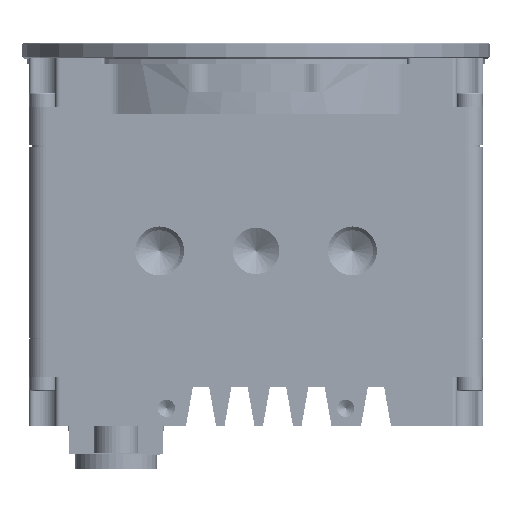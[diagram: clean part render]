
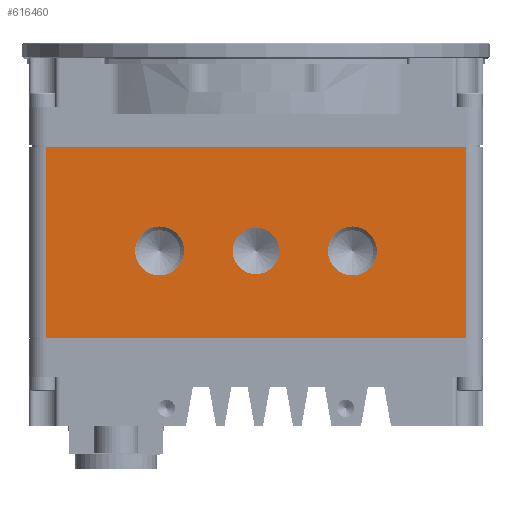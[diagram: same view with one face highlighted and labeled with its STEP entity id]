
A CAD part, front view. The second image highlights one B-rep face of the part: STEP entity #616460.
In plain terms, the highlighted planar face has unit normal (0, -1, 0).
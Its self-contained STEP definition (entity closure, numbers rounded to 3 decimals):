
#18959 = ORIENTED_EDGE ( 'NONE', *, *, #171097, .T. ) ;
#21669 = FACE_BOUND ( 'NONE', #151263, .T. ) ;
#36903 = AXIS2_PLACEMENT_3D ( 'NONE', #613152, #400120, #352435 ) ;
#50786 = VERTEX_POINT ( 'NONE', #303445 ) ;
#65046 = CIRCLE ( 'NONE', #174293, 3.378 ) ;
#65606 = CARTESIAN_POINT ( 'NONE',  ( 30.48, -26.67, -0.127 ) ) ;
#66860 = DIRECTION ( 'NONE',  ( 0., 0., 1. ) ) ;
#76630 = LINE ( 'NONE', #186213, #173561 ) ;
#78828 = VERTEX_POINT ( 'NONE', #65606 ) ;
#83039 = DIRECTION ( 'NONE',  ( 0., 0., 1. ) ) ;
#92913 = AXIS2_PLACEMENT_3D ( 'NONE', #531815, #638269, #66860 ) ;
#128115 = CIRCLE ( 'NONE', #499411, 3.55 ) ;
#142074 = CARTESIAN_POINT ( 'NONE',  ( 14., -26.67, -11.69 ) ) ;
#151263 = EDGE_LOOP ( 'NONE', ( #460669, #663733 ) ) ;
#151691 = DIRECTION ( 'NONE',  ( 0., -1., 0. ) ) ;
#165980 = VERTEX_POINT ( 'NONE', #321130 ) ;
#171097 = EDGE_CURVE ( 'NONE', #171845, #380185, #76630, .T. ) ;
#171845 = VERTEX_POINT ( 'NONE', #420568 ) ;
#173561 = VECTOR ( 'NONE', #607981, 1000. ) ;
#174293 = AXIS2_PLACEMENT_3D ( 'NONE', #462436, #151691, #514538 ) ;
#186213 = CARTESIAN_POINT ( 'NONE',  ( -30.48, -26.67, -27.94 ) ) ;
#222657 = CARTESIAN_POINT ( 'NONE',  ( 0., -26.67, -11.862 ) ) ;
#226134 = AXIS2_PLACEMENT_3D ( 'NONE', #335574, #535333, #643978 ) ;
#256536 = CIRCLE ( 'NONE', #460102, 3.55 ) ;
#265380 = EDGE_CURVE ( 'NONE', #165980, #78828, #407940, .T. ) ;
#269949 = VECTOR ( 'NONE', #83039, 1000. ) ;
#275732 = ORIENTED_EDGE ( 'NONE', *, *, #584041, .F. ) ;
#283823 = CARTESIAN_POINT ( 'NONE',  ( 30.48, -26.67, -0.127 ) ) ;
#303445 = CARTESIAN_POINT ( 'NONE',  ( -14., -26.67, -11.69 ) ) ;
#312735 = VERTEX_POINT ( 'NONE', #350751 ) ;
#316678 = ORIENTED_EDGE ( 'NONE', *, *, #430637, .F. ) ;
#317296 = DIRECTION ( 'NONE',  ( 1., 0., 0. ) ) ;
#321130 = CARTESIAN_POINT ( 'NONE',  ( 30.48, -26.67, -27.813 ) ) ;
#321599 = ORIENTED_EDGE ( 'NONE', *, *, #265380, .T. ) ;
#335574 = CARTESIAN_POINT ( 'NONE',  ( 33.02, -26.67, -27.94 ) ) ;
#336045 = VERTEX_POINT ( 'NONE', #222657 ) ;
#347554 = VERTEX_POINT ( 'NONE', #539930 ) ;
#350751 = CARTESIAN_POINT ( 'NONE',  ( 0., -26.67, -18.618 ) ) ;
#352435 = DIRECTION ( 'NONE',  ( 0., 0., 1. ) ) ;
#353500 = DIRECTION ( 'NONE',  ( 0., -1., 0. ) ) ;
#360768 = CIRCLE ( 'NONE', #498618, 3.55 ) ;
#380185 = VERTEX_POINT ( 'NONE', #535078 ) ;
#384042 = CARTESIAN_POINT ( 'NONE',  ( -14., -26.67, -15.24 ) ) ;
#386885 = ORIENTED_EDGE ( 'NONE', *, *, #541145, .T. ) ;
#392886 = EDGE_LOOP ( 'NONE', ( #592201, #530249 ) ) ;
#400120 = DIRECTION ( 'NONE',  ( 0., -1., 0. ) ) ;
#402685 = EDGE_LOOP ( 'NONE', ( #673374, #316678 ) ) ;
#407940 = LINE ( 'NONE', #600072, #269949 ) ;
#420568 = CARTESIAN_POINT ( 'NONE',  ( -30.48, -26.67, -0.127 ) ) ;
#430637 = EDGE_CURVE ( 'NONE', #347554, #50786, #360768, .T. ) ;
#434021 = DIRECTION ( 'NONE',  ( 0., -1., 0. ) ) ;
#440322 = DIRECTION ( 'NONE',  ( 1., 0., 0. ) ) ;
#449633 = EDGE_CURVE ( 'NONE', #672812, #509516, #256536, .T. ) ;
#453433 = DIRECTION ( 'NONE',  ( 0., 0., 1. ) ) ;
#456905 = VECTOR ( 'NONE', #440322, 1000. ) ;
#460102 = AXIS2_PLACEMENT_3D ( 'NONE', #559926, #353500, #453433 ) ;
#460669 = ORIENTED_EDGE ( 'NONE', *, *, #605761, .F. ) ;
#462436 = CARTESIAN_POINT ( 'NONE',  ( 0., -26.67, -15.24 ) ) ;
#472772 = VECTOR ( 'NONE', #317296, 1000. ) ;
#483133 = PLANE ( 'NONE',  #226134 ) ;
#498618 = AXIS2_PLACEMENT_3D ( 'NONE', #384042, #434021, #540626 ) ;
#499411 = AXIS2_PLACEMENT_3D ( 'NONE', #554166, #660785, #547522 ) ;
#508402 = FACE_BOUND ( 'NONE', #392886, .T. ) ;
#509516 = VERTEX_POINT ( 'NONE', #142074 ) ;
#514538 = DIRECTION ( 'NONE',  ( 0., 0., 1. ) ) ;
#521528 = LINE ( 'NONE', #634682, #472772 ) ;
#524688 = FACE_BOUND ( 'NONE', #402685, .T. ) ;
#530249 = ORIENTED_EDGE ( 'NONE', *, *, #590895, .F. ) ;
#531382 = CARTESIAN_POINT ( 'NONE',  ( 14., -26.67, -18.79 ) ) ;
#531815 = CARTESIAN_POINT ( 'NONE',  ( 0., -26.67, -15.24 ) ) ;
#535078 = CARTESIAN_POINT ( 'NONE',  ( -30.48, -26.67, -27.813 ) ) ;
#535333 = DIRECTION ( 'NONE',  ( 0., 1., 0. ) ) ;
#539930 = CARTESIAN_POINT ( 'NONE',  ( -14., -26.67, -18.79 ) ) ;
#540626 = DIRECTION ( 'NONE',  ( 0., 0., 1. ) ) ;
#540962 = FACE_OUTER_BOUND ( 'NONE', #625932, .T. ) ;
#541145 = EDGE_CURVE ( 'NONE', #380185, #165980, #521528, .T. ) ;
#547522 = DIRECTION ( 'NONE',  ( 0., 0., 1. ) ) ;
#554166 = CARTESIAN_POINT ( 'NONE',  ( 14., -26.67, -15.24 ) ) ;
#559926 = CARTESIAN_POINT ( 'NONE',  ( 14., -26.67, -15.24 ) ) ;
#584041 = EDGE_CURVE ( 'NONE', #171845, #78828, #611052, .T. ) ;
#585807 = CIRCLE ( 'NONE', #92913, 3.378 ) ;
#590895 = EDGE_CURVE ( 'NONE', #312735, #336045, #585807, .T. ) ;
#592201 = ORIENTED_EDGE ( 'NONE', *, *, #628308, .F. ) ;
#600072 = CARTESIAN_POINT ( 'NONE',  ( 30.48, -26.67, -27.94 ) ) ;
#605761 = EDGE_CURVE ( 'NONE', #509516, #672812, #128115, .T. ) ;
#607981 = DIRECTION ( 'NONE',  ( 0., 0., -1. ) ) ;
#611052 = LINE ( 'NONE', #283823, #456905 ) ;
#613152 = CARTESIAN_POINT ( 'NONE',  ( -14., -26.67, -15.24 ) ) ;
#616460 = ADVANCED_FACE ( 'NONE', ( #524688, #21669, #508402, #540962 ), #483133, .F. ) ;
#625932 = EDGE_LOOP ( 'NONE', ( #386885, #321599, #275732, #18959 ) ) ;
#628308 = EDGE_CURVE ( 'NONE', #336045, #312735, #65046, .T. ) ;
#634682 = CARTESIAN_POINT ( 'NONE',  ( 30.48, -26.67, -27.813 ) ) ;
#636832 = CIRCLE ( 'NONE', #36903, 3.55 ) ;
#638269 = DIRECTION ( 'NONE',  ( 0., -1., 0. ) ) ;
#643978 = DIRECTION ( 'NONE',  ( 0., 0., -1. ) ) ;
#648712 = EDGE_CURVE ( 'NONE', #50786, #347554, #636832, .T. ) ;
#660785 = DIRECTION ( 'NONE',  ( 0., -1., 0. ) ) ;
#663733 = ORIENTED_EDGE ( 'NONE', *, *, #449633, .F. ) ;
#672812 = VERTEX_POINT ( 'NONE', #531382 ) ;
#673374 = ORIENTED_EDGE ( 'NONE', *, *, #648712, .F. ) ;
